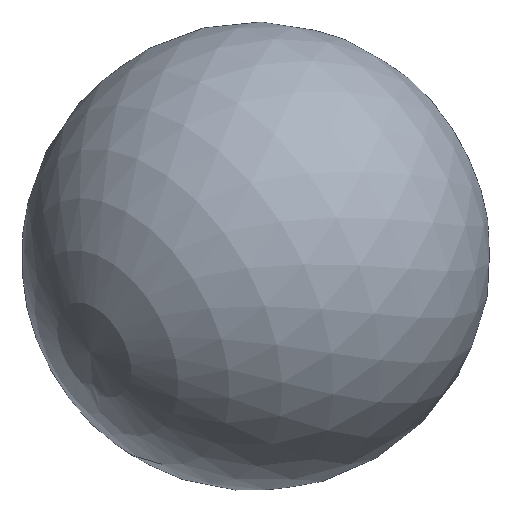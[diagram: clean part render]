
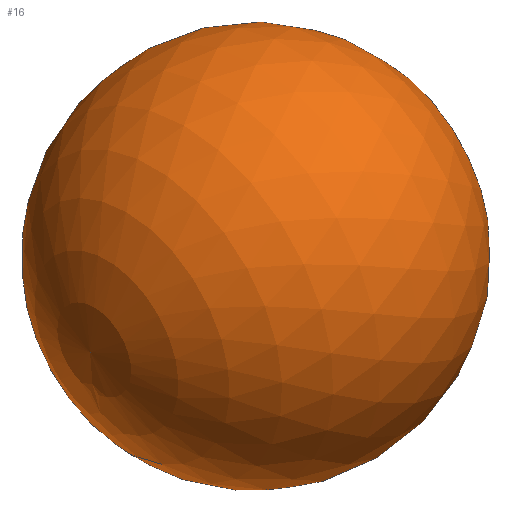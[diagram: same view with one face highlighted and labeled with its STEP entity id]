
A CAD part, isometric view. The second image highlights one B-rep face of the part: STEP entity #16.
In plain terms, the highlighted spherical face has radius 1.212 mm.
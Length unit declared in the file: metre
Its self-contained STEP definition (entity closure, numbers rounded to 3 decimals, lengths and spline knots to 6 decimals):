
#12=VERTEX_POINT('',#37);
#13=VERTEX_LOOP('',#12);
#14=FACE_BOUND('',#13,.T.);
#15=SPHERICAL_SURFACE('',#30,0.001212);
#16=ADVANCED_FACE('',(#14),#15,.T.);
#30=AXIS2_PLACEMENT_3D('',#36,#33,#34);
#33=DIRECTION('',(-1.,0.,0.));
#34=DIRECTION('',(0.,0.,-1.));
#36=CARTESIAN_POINT('',(0.,0.0275,-0.00525));
#37=CARTESIAN_POINT('',(0.001212,0.0275,-0.00525));
